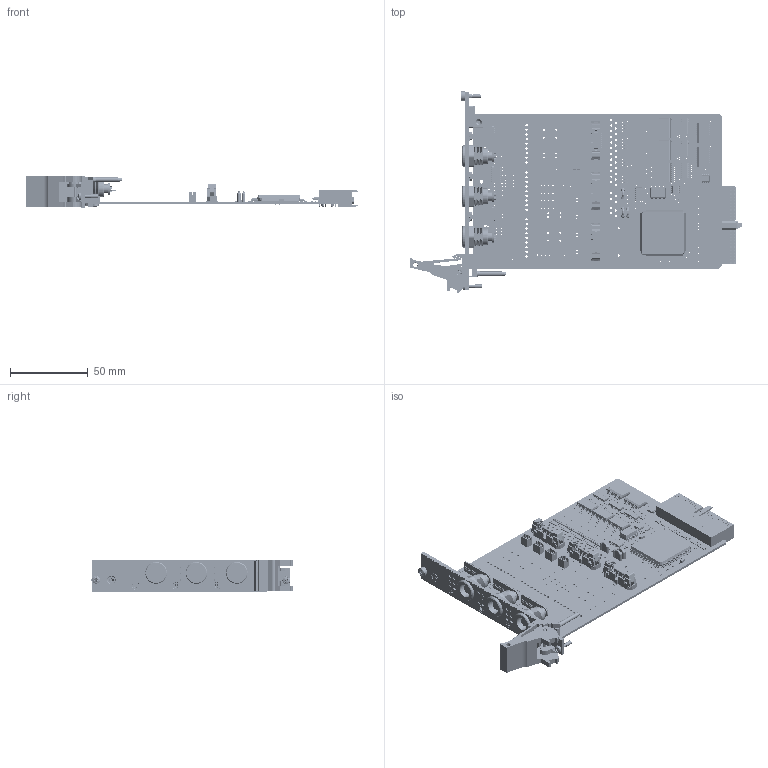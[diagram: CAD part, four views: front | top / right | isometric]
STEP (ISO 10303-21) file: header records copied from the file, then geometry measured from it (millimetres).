
FILE_DESCRIPTION (( 'STEP AP214' ), '1' );
FILE_NAME ('40-785B-553-TE BASIC ASSY-S20.STEP', '2019-07-19T09:54:13', ( 'admin' ), ( 'Hewlett-Packard Company' ), 'SwSTEP 2.0', 'SolidWorks 2019', '' );
FILE_SCHEMA (( 'AUTOMOTIVE_DESIGN' ));
Length unit declared in the file: millimetre
Products named in the file (66): C-CP-104 CAP 22000uF 3 Terminal CAP; A-PC-716-C-# uWAVE SOURCE DRIVER CARD; C-FX-165 CPCI Ejector Handle; A-PC-1059-# Microwave Ribbon PCB Assy; A-PC-1055-# LED PCB Microwave Realy; C-RS-079 Res N-W 4x10K 1206 CRA3A4E10K; C-BP-015 PXI 3U x 1 Slot Blank Panel; C-FX-042 Screw M2.5x6 CSK Pozi_M 2.5x06 - C-FX-042; C-CN-971 2X8WAY FEMALE SMT HEADER 2MM_ALIGNMENTALEAD STYLE1PINS8PLATINGFROWDV; C-CN-1318 ODU MINI-SNAP L-SERIES P10 PCB; C-IC-121 IC 93CS46-3 GR (SO8) SMT_No Text; L-FP-874 PXI 1 SLT FP Label Assy; C-FX-028 Hex Nut M2.5 _C-FX-028 M2,5 Nut; 40-785B-553-TE  BASIC ASSY-S20; C-IC-087 IC 74HCT32D Logic IC Smt_No Text; C-FX-165 Handle Body; C-CN-1132-PIN; C-CP-141 CAP 10UF 1206 35V X5R 10%; C-CN-887 2 X8 WAY HEADER MALE STRAIGHT; P-FX-017 M2,5 Collar Posi-Slot Screw; C-CN-1318 ODU MINI-SNAP L-SERIES P10 PCB SOCKET; C-IC-330 A2982 SOURCE DRIVER; A-PC-716-C uWAVE SOURCE DRIVER CARD; C-BK-026 Bush Front Panel Mounting; A-PC-1059 Microwave Ribbon PCB Assy; A-PC-1055 LED PCB Microwave Realy; C-CN-861 1 x 2 Way Header B2B-PH-K-S; C-FP-874 PXI 3U 1 SLOT 3 x SNAP OUD; C-FX-396 M2.5 x 4mm Countersink screw_M 2.5x4mm - C-FX-396; C-RS-152 Res 10K 0603 1-16W 1% 300PPM; C-CN-355 Compact pci connector 3; A-FP-874 PXI 1 SLT 3x8way Mini Snap FP+Label Assy; C-PC-1059 Microwave Ribbon PCB; C-IC-099 DIP8 Package_No Text; C-FX-165 Handle Finger; C-CN-1132 2x8 Through Samtec Header; C-RS-190 Res 0R0 SIZE 0603 SMT; C-SC-056 Diode 1SS355TE-17; L-FX-165 PXI Handle Label; C-IC-290 IC 8STAGE TRI-STATE SHIFT REGISTE_Without Package Description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
Assembly tree (280 placements, depth 5):
  40-785B-553-TE  BASIC ASSY-S20
    A-PC-716-C uWAVE SOURCE DRIVER CARD
      A-PC-716-C-# uWAVE SOURCE DRIVER CARD
        C-PC-716 RIM Interface PCB
        C-CP-141 CAP 10UF 1206 35V X5R 10%  x3
        C-RS-190 Res 0R0 SIZE 0603 SMT  x57
        C-CP-104 CAP 22000uF 3 Terminal CAP  x3
        C-IC-330 A2982 SOURCE DRIVER  x3
        C-IC-290 IC 8STAGE TRI-STATE SHIFT REGISTE_Without Package Description  x3
        C-RS-079 Res N-W 4x10K 1206 CRA3A4E10K  x21
        C-CN-861 1 x 2 Way Header B2B-PH-K-S  x4
        C-SC-035 Transistor SMT
        C-IC-121 IC 93CS46-3 GR (SO8) SMT_No Text  x3
        C-CN-355 Compact pci connector 3
        C-IC-101 IC 74HCT244 SMD  x2
        C-IC-087 IC 74HCT32D Logic IC Smt_No Text
        C-IC-099 DIP8 Package_No Text
        C-IC-219 PLX PCI9052
        C-CN-887 2 X8 WAY HEADER MALE STRAIGHT  x3
        C-SC-056 Diode 1SS355TE-17  x24
    C-FX-101 M2.5x6mm Pan Head Cross Recess Screw_ISO_ISO 7045 - M2.5 x 6 - Z --- 6N  x2
    A-FP-874-L1 PXI 1 SLT 3x8 way mini snap FP Full Assembly
      A-FP-874 PXI 1 SLT 3x8way Mini Snap FP+Label Assy
        C-FP-874 PXI 3U 1 SLOT 3 x SNAP OUD
          C-BP-015 PXI 3U x 1 Slot Blank Panel
        L-FP-874 PXI 1 SLT FP Label Assy
          L-FP-874-# PXI 1 SLT 3x8 Way Minisnap FP Label
      C-FX-025 Pcb Mounting Bracket
      C-FX-165 CPCI Ejector Handle
        C-FX-165 Handle Body
        C-FX-165 Handle Finger
        C-FX-165 Handle Pin
        P-FX-017 M2,5 Collar Posi-Slot Screw
        L-FX-165 PXI Handle Label
      Z-FX-2001 FP Fixing - Bush + Screw
        C-BK-026 Bush Front Panel Mounting
        P-FX-017 M2,5 Collar Posi-Slot Screw
      C-FX-042 Screw M2.5x6 CSK Pozi_M 2.5x06 - C-FX-042
      C-FX-101 M2.5x6mm Pan Head Cross Recess Screw_ISO_ISO 7045 - M2.5 x 6 - Z --- 6N
      C-FX-396 M2.5 x 4mm Countersink screw_M 2.5x4mm - C-FX-396  x3
    C-FX-028 Hex Nut M2.5 _C-FX-028 M2,5 Nut  x3
    A-PC-1059 Microwave Ribbon PCB Assy
      A-PC-1059-# Microwave Ribbon PCB Assy
        C-PC-1059 Microwave Ribbon PCB
        C-CN-1132 2x8 Through Samtec Header
          C-CN-1132-Base
          C-CN-1132-PIN  x16
        C-CN-1318 ODU MINI-SNAP L-SERIES P10 PCB
          C-CN-1318 ODU MINI-SNAP L-SERIES P10 PCB NUT
          C-CN-1318 ODU MINI-SNAP L-SERIES P10 PCB SOCKET
    A-PC-1055 LED PCB Microwave Realy
      A-PC-1055-# LED PCB Microwave Realy
        pcb1055r0
        C-CN-971 2X8WAY FEMALE SMT HEADER 2MM_ALIGNMENTALEAD STYLE1PINS8PLATINGFROWDV
        C-RS-152 Res 10K 0603 1-16W 1% 300PPM  x6
        C-SC-147 BLUE LED 0603  x6
    A-PC-1059 Microwave Ribbon PCB Assy
      A-PC-1059-# Microwave Ribbon PCB Assy
        C-PC-1059 Microwave Ribbon PCB
        C-CN-1132 2x8 Through Samtec Header
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Bounding box: 214.01 x 129.67 x 20 mm (x, y, z)
Volume: 58208.2 mm3; surface area: 92145.2 mm2
Topology: 761 solids, 794 shells, 23246 faces, 59091 edges, 37841 vertices
Faces by surface type: plane 15261, cylinder 6723, cone 697, bspline 267, sphere 213, torus 85
Entity records: 479995 total; most frequent: CARTESIAN_POINT 78005, DIRECTION 66110, ORIENTED_EDGE 63612, EDGE_CURVE 31810, AXIS2_PLACEMENT_3D 22566, LINE 20978, VECTOR 20978, VERTEX_POINT 20719
